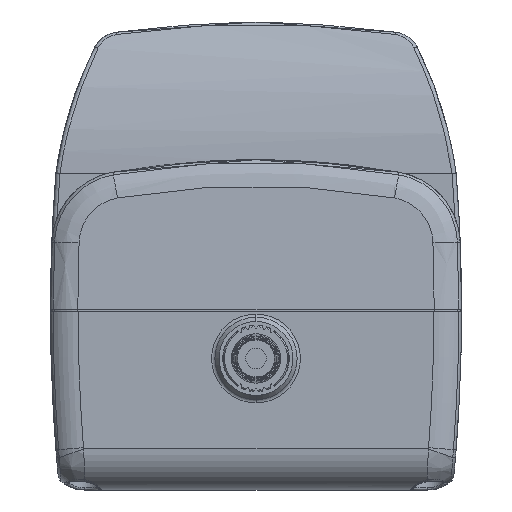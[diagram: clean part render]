
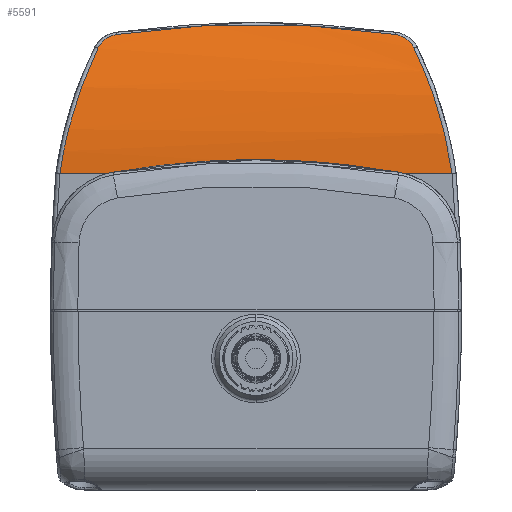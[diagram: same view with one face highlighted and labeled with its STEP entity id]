
A CAD part, front view. The second image highlights one B-rep face of the part: STEP entity #5591.
In plain terms, the highlighted cylindrical face has radius 72.899 mm (diameter 145.798 mm), a partial arc.
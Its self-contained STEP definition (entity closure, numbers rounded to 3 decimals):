
#749 = CARTESIAN_POINT ( 'NONE',  ( 25.808, -103.221, 53.318 ) ) ;
#893 = CARTESIAN_POINT ( 'NONE',  ( -49.389, -105.653, 48.198 ) ) ;
#972 = CARTESIAN_POINT ( 'NONE',  ( 1.501, -101.693, 56.14 ) ) ;
#994 = CARTESIAN_POINT ( 'NONE',  ( -55.757, -110.678, 29.445 ) ) ;
#1402 = B_SPLINE_CURVE_WITH_KNOTS ( 'NONE', 3,
 ( #6241, #25849, #14963, #21572, #8459, #23773, #10670, #25943, #749, #18170, #22427, #9326 ),
 .UNSPECIFIED., .F., .F.,
 ( 4, 2, 2, 2, 2, 4 ),
 ( 0., 0.002, 0.003, 0.004, 0.005, 0.006 ),
 .UNSPECIFIED. ) ;
#1473 = DIRECTION ( 'NONE',  ( 1., 0., 0. ) ) ;
#1658 = CARTESIAN_POINT ( 'NONE',  ( 28.645, -104.598, 50.489 ) ) ;
#1750 = EDGE_CURVE ( 'NONE', #5532, #15656, #1402, .T. ) ;
#1962 = VERTEX_POINT ( 'NONE', #18588 ) ;
#2021 = FACE_OUTER_BOUND ( 'NONE', #21823, .T. ) ;
#2118 = CARTESIAN_POINT ( 'NONE',  ( 34.741, -109.796, 34.696 ) ) ;
#2503 = VECTOR ( 'NONE', #1473, 1000. ) ;
#3108 = CARTESIAN_POINT ( 'NONE',  ( -48.277, -104.598, 50.489 ) ) ;
#3192 = CARTESIAN_POINT ( 'NONE',  ( -21.134, -101.693, 56.14 ) ) ;
#3202 = CARTESIAN_POINT ( 'NONE',  ( -57.125, -111.28, 22.735 ) ) ;
#3258 = EDGE_CURVE ( 'NONE', #1962, #21498, #22305, .T. ) ;
#3549 = AXIS2_PLACEMENT_3D ( 'NONE', #6286, #8506, #10719 ) ;
#3893 = B_SPLINE_CURVE_WITH_KNOTS ( 'NONE', 3,
 ( #27217, #11931, #14119, #972, #16329, #3192, #18516, #5401, #20725 ),
 .UNSPECIFIED., .F., .F.,
 ( 4, 2, 1, 2, 4 ),
 ( 0., 0.017, 0.034, 0.051, 0.068 ),
 .UNSPECIFIED. ) ;
#4248 = CARTESIAN_POINT ( 'NONE',  ( 37.867, -111.28, 20. ) ) ;
#4334 = CARTESIAN_POINT ( 'NONE',  ( 32.696, -108.234, 41.01 ) ) ;
#5401 = CARTESIAN_POINT ( 'NONE',  ( -38.111, -102.516, 54.669 ) ) ;
#5532 = VERTEX_POINT ( 'NONE', #1658 ) ;
#5591 = ADVANCED_FACE ( 'NONE', ( #2021 ), #23989, .T. ) ;
#5801 = CARTESIAN_POINT ( 'NONE',  ( -57.5, -111.28, 20. ) ) ;
#6241 = CARTESIAN_POINT ( 'NONE',  ( 28.645, -104.598, 50.489 ) ) ;
#6286 = CARTESIAN_POINT ( 'NONE',  ( -69.816, -38.381, 20. ) ) ;
#6455 = CARTESIAN_POINT ( 'NONE',  ( 37.492, -111.28, 22.735 ) ) ;
#6551 = CARTESIAN_POINT ( 'NONE',  ( 29.756, -105.653, 48.198 ) ) ;
#6983 = CARTESIAN_POINT ( 'NONE',  ( -45.681, -103.274, 53.215 ) ) ;
#7138 = ORIENTED_EDGE ( 'NONE', *, *, #25069, .T. ) ;
#8396 = LINE ( 'NONE', #25435, #2503 ) ;
#8459 = CARTESIAN_POINT ( 'NONE',  ( 27.239, -103.693, 52.384 ) ) ;
#8506 = DIRECTION ( 'NONE',  ( 1., 0., 0. ) ) ;
#8594 = CARTESIAN_POINT ( 'NONE',  ( -43.77, -102.959, 53.822 ) ) ;
#9204 = CARTESIAN_POINT ( 'NONE',  ( -46.871, -103.693, 52.384 ) ) ;
#9326 = CARTESIAN_POINT ( 'NONE',  ( 24.137, -102.959, 53.822 ) ) ;
#9748 = CARTESIAN_POINT ( 'NONE',  ( -52.329, -108.234, 41.01 ) ) ;
#9871 = ORIENTED_EDGE ( 'NONE', *, *, #3258, .T. ) ;
#10670 = CARTESIAN_POINT ( 'NONE',  ( 26.458, -103.405, 52.958 ) ) ;
#10719 = DIRECTION ( 'NONE',  ( 0., 0., -1. ) ) ;
#11410 = CARTESIAN_POINT ( 'NONE',  ( -47.819, -104.215, 51.31 ) ) ;
#11931 = CARTESIAN_POINT ( 'NONE',  ( 18.478, -102.516, 54.669 ) ) ;
#11948 = CARTESIAN_POINT ( 'NONE',  ( -54.374, -109.796, 34.696 ) ) ;
#13087 = CARTESIAN_POINT ( 'NONE',  ( 36.124, -110.678, 29.445 ) ) ;
#13509 = CARTESIAN_POINT ( 'NONE',  ( -44.275, -102.999, 53.747 ) ) ;
#13598 = CARTESIAN_POINT ( 'NONE',  ( -48.277, -104.598, 50.489 ) ) ;
#13789 = EDGE_CURVE ( 'NONE', #21498, #20195, #8396, .T. ) ;
#14119 = CARTESIAN_POINT ( 'NONE',  ( 12.819, -102.165, 55.3 ) ) ;
#14134 = CARTESIAN_POINT ( 'NONE',  ( -55.435, -110.492, 30.776 ) ) ;
#14963 = CARTESIAN_POINT ( 'NONE',  ( 28.187, -104.215, 51.31 ) ) ;
#15272 = CARTESIAN_POINT ( 'NONE',  ( 35.11, -110.05, 33.402 ) ) ;
#15598 = ORIENTED_EDGE ( 'NONE', *, *, #13789, .T. ) ;
#15618 = CARTESIAN_POINT ( 'NONE',  ( -43.77, -102.959, 53.822 ) ) ;
#15656 = VERTEX_POINT ( 'NONE', #23313 ) ;
#16329 = CARTESIAN_POINT ( 'NONE',  ( -9.816, -101.45, 56.559 ) ) ;
#16343 = CARTESIAN_POINT ( 'NONE',  ( -56.642, -111.127, 25.438 ) ) ;
#17463 = CARTESIAN_POINT ( 'NONE',  ( 33.567, -108.935, 38.526 ) ) ;
#18170 = CARTESIAN_POINT ( 'NONE',  ( 25.122, -103.071, 53.609 ) ) ;
#18516 = CARTESIAN_POINT ( 'NONE',  ( -32.452, -102.165, 55.3 ) ) ;
#18532 = CARTESIAN_POINT ( 'NONE',  ( -57.5, -111.28, 20. ) ) ;
#18588 = CARTESIAN_POINT ( 'NONE',  ( -48.277, -104.598, 50.489 ) ) ;
#19663 = CARTESIAN_POINT ( 'NONE',  ( 30.791, -106.593, 45.846 ) ) ;
#19908 = EDGE_CURVE ( 'NONE', #15656, #25959, #3893, .T. ) ;
#20096 = CARTESIAN_POINT ( 'NONE',  ( -44.758, -103.071, 53.609 ) ) ;
#20144 = ORIENTED_EDGE ( 'NONE', *, *, #19908, .T. ) ;
#20195 = VERTEX_POINT ( 'NONE', #22510 ) ;
#20725 = CARTESIAN_POINT ( 'NONE',  ( -43.77, -102.959, 53.822 ) ) ;
#21498 = VERTEX_POINT ( 'NONE', #5801 ) ;
#21572 = CARTESIAN_POINT ( 'NONE',  ( 27.589, -103.861, 52.044 ) ) ;
#21784 = ORIENTED_EDGE ( 'NONE', *, *, #1750, .T. ) ;
#21823 = EDGE_LOOP ( 'NONE', ( #15598, #24497, #21784, #20144, #7138, #9871 ) ) ;
#21875 = CARTESIAN_POINT ( 'NONE',  ( 28.645, -104.598, 50.489 ) ) ;
#22091 = B_SPLINE_CURVE_WITH_KNOTS ( 'NONE', 3,
 ( #4248, #6455, #26160, #13087, #28334, #15272, #2118, #17463, #4334, #19663, #6551, #21875 ),
 .UNSPECIFIED., .F., .F.,
 ( 4, 2, 2, 2, 2, 4 ),
 ( 0., 0.008, 0.012, 0.016, 0.025, 0.033 ),
 .UNSPECIFIED. ) ;
#22305 = B_SPLINE_CURVE_WITH_KNOTS ( 'NONE', 3,
 ( #3108, #893, #22858, #9748, #25043, #11948, #27233, #14134, #994, #16343, #3202, #18532 ),
 .UNSPECIFIED., .F., .F.,
 ( 4, 2, 2, 2, 2, 4 ),
 ( 0., 0.008, 0.016, 0.02, 0.025, 0.033 ),
 .UNSPECIFIED. ) ;
#22328 = CARTESIAN_POINT ( 'NONE',  ( -46.103, -103.401, 52.967 ) ) ;
#22427 = CARTESIAN_POINT ( 'NONE',  ( 24.642, -102.999, 53.747 ) ) ;
#22510 = CARTESIAN_POINT ( 'NONE',  ( 37.867, -111.28, 20. ) ) ;
#22858 = CARTESIAN_POINT ( 'NONE',  ( -50.423, -106.593, 45.846 ) ) ;
#23313 = CARTESIAN_POINT ( 'NONE',  ( 24.137, -102.959, 53.822 ) ) ;
#23596 = EDGE_CURVE ( 'NONE', #20195, #5532, #22091, .T. ) ;
#23773 = CARTESIAN_POINT ( 'NONE',  ( 26.661, -103.473, 52.823 ) ) ;
#23989 = CYLINDRICAL_SURFACE ( 'NONE', #3549, 72.899 ) ;
#24497 = ORIENTED_EDGE ( 'NONE', *, *, #23596, .T. ) ;
#24508 = CARTESIAN_POINT ( 'NONE',  ( -47.222, -103.861, 52.044 ) ) ;
#24720 = B_SPLINE_CURVE_WITH_KNOTS ( 'NONE', 3,
 ( #15618, #13509, #20096, #6983, #22328, #9204, #24508, #11410, #26700, #13598 ),
 .UNSPECIFIED., .F., .F.,
 ( 4, 2, 2, 2, 4 ),
 ( 0., 0.002, 0.003, 0.005, 0.006 ),
 .UNSPECIFIED. ) ;
#25043 = CARTESIAN_POINT ( 'NONE',  ( -53.2, -108.935, 38.526 ) ) ;
#25069 = EDGE_CURVE ( 'NONE', #25959, #1962, #24720, .T. ) ;
#25435 = CARTESIAN_POINT ( 'NONE',  ( -69.816, -111.28, 20. ) ) ;
#25849 = CARTESIAN_POINT ( 'NONE',  ( 28.439, -104.403, 50.914 ) ) ;
#25943 = CARTESIAN_POINT ( 'NONE',  ( 26.033, -103.279, 53.205 ) ) ;
#25959 = VERTEX_POINT ( 'NONE', #8594 ) ;
#26160 = CARTESIAN_POINT ( 'NONE',  ( 37.009, -111.127, 25.438 ) ) ;
#26700 = CARTESIAN_POINT ( 'NONE',  ( -48.071, -104.403, 50.914 ) ) ;
#27217 = CARTESIAN_POINT ( 'NONE',  ( 24.137, -102.959, 53.822 ) ) ;
#27233 = CARTESIAN_POINT ( 'NONE',  ( -54.743, -110.05, 33.402 ) ) ;
#28334 = CARTESIAN_POINT ( 'NONE',  ( 35.802, -110.492, 30.776 ) ) ;
